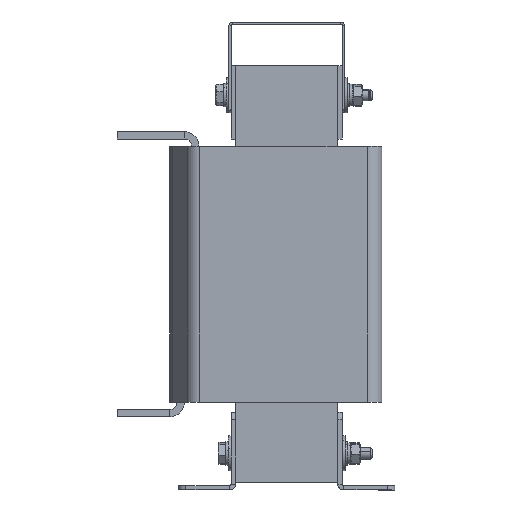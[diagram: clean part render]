
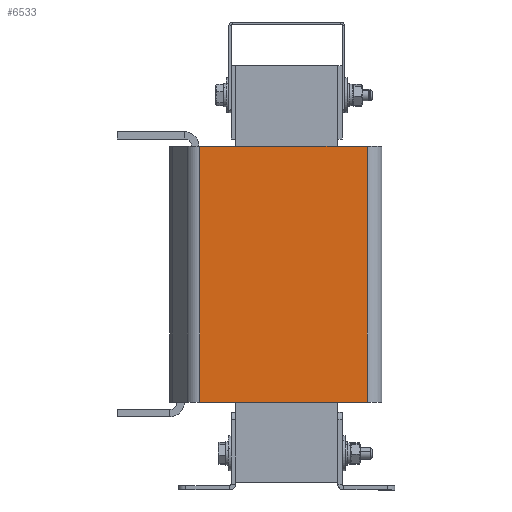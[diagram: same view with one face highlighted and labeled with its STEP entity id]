
A CAD part, left-side view. The second image highlights one B-rep face of the part: STEP entity #6533.
In plain terms, the highlighted planar face has unit normal (-1, 0, 0).
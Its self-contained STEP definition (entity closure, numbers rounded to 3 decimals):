
#116 = LINE ( 'NONE', #6950, #2578 ) ;
#482 = FACE_OUTER_BOUND ( 'NONE', #9115, .T. ) ;
#597 = CARTESIAN_POINT ( 'NONE',  ( -45., 65., -175. ) ) ;
#784 = DIRECTION ( 'NONE',  ( 0., 0., 1. ) ) ;
#1302 = ORIENTED_EDGE ( 'NONE', *, *, #6096, .T. ) ;
#1405 = EDGE_CURVE ( 'NONE', #7075, #1995, #2579, .T. ) ;
#1735 = DIRECTION ( 'NONE',  ( 0., 0., -1. ) ) ;
#1885 = CARTESIAN_POINT ( 'NONE',  ( -45., 65., -175. ) ) ;
#1995 = VERTEX_POINT ( 'NONE', #3876 ) ;
#2037 = DIRECTION ( 'NONE',  ( -1., 0., 0. ) ) ;
#2047 = LINE ( 'NONE', #597, #2432 ) ;
#2432 = VECTOR ( 'NONE', #3661, 1000. ) ;
#2578 = VECTOR ( 'NONE', #784, 1000. ) ;
#2579 = LINE ( 'NONE', #9486, #7881 ) ;
#3326 = DIRECTION ( 'NONE',  ( 0., -1., 0. ) ) ;
#3661 = DIRECTION ( 'NONE',  ( 0., -1., 0. ) ) ;
#3876 = CARTESIAN_POINT ( 'NONE',  ( -45., -55., 0. ) ) ;
#3904 = LINE ( 'NONE', #5478, #6458 ) ;
#4455 = CARTESIAN_POINT ( 'NONE',  ( -45., 59.615, -175. ) ) ;
#4858 = CARTESIAN_POINT ( 'NONE',  ( -45., 59.615, 0. ) ) ;
#4940 = VERTEX_POINT ( 'NONE', #4455 ) ;
#5478 = CARTESIAN_POINT ( 'NONE',  ( -45., 59.615, -175. ) ) ;
#6096 = EDGE_CURVE ( 'NONE', #4940, #9895, #2047, .T. ) ;
#6458 = VECTOR ( 'NONE', #1735, 1000. ) ;
#6533 = ADVANCED_FACE ( 'NONE', ( #482 ), #9796, .T. ) ;
#6660 = AXIS2_PLACEMENT_3D ( 'NONE', #1885, #2037, #8941 ) ;
#6950 = CARTESIAN_POINT ( 'NONE',  ( -45., -55., -175. ) ) ;
#7075 = VERTEX_POINT ( 'NONE', #4858 ) ;
#7376 = ORIENTED_EDGE ( 'NONE', *, *, #1405, .F. ) ;
#7402 = ORIENTED_EDGE ( 'NONE', *, *, #8584, .T. ) ;
#7671 = CARTESIAN_POINT ( 'NONE',  ( -45., -55., -175. ) ) ;
#7881 = VECTOR ( 'NONE', #3326, 1000. ) ;
#8033 = ORIENTED_EDGE ( 'NONE', *, *, #8510, .T. ) ;
#8510 = EDGE_CURVE ( 'NONE', #9895, #1995, #116, .T. ) ;
#8584 = EDGE_CURVE ( 'NONE', #7075, #4940, #3904, .T. ) ;
#8941 = DIRECTION ( 'NONE',  ( 0., 0., 1. ) ) ;
#9115 = EDGE_LOOP ( 'NONE', ( #1302, #8033, #7376, #7402 ) ) ;
#9486 = CARTESIAN_POINT ( 'NONE',  ( -45., 65., 0. ) ) ;
#9796 = PLANE ( 'NONE',  #6660 ) ;
#9895 = VERTEX_POINT ( 'NONE', #7671 ) ;
